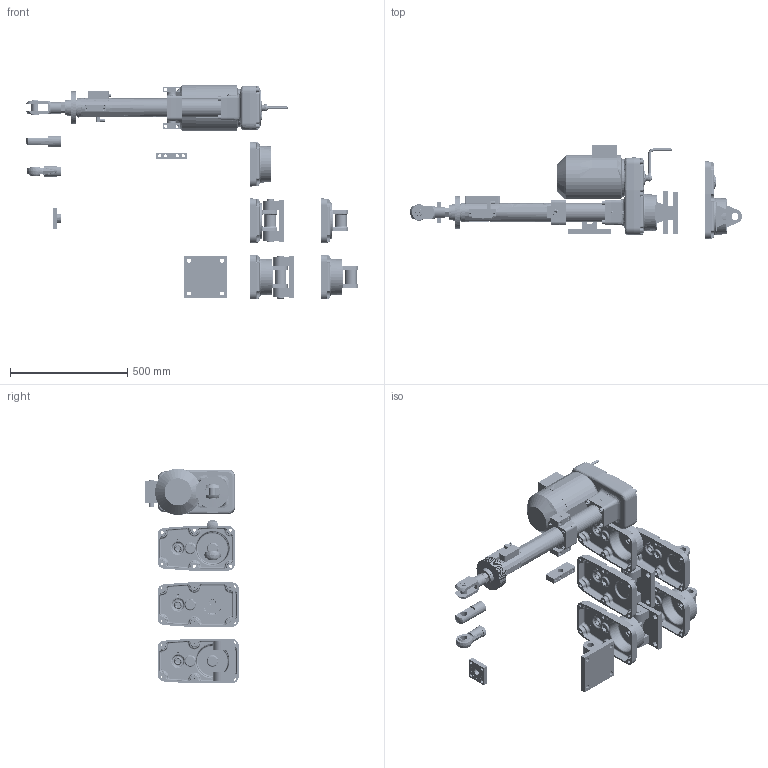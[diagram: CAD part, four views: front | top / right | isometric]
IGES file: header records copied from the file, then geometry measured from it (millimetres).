
Start section: SolidWorks IGES file using analytic representation for surfaces
Global section: file name: D:\ÂÍÓÊÎÂ ÂÑ\ÑÌ\Ñàéò\ÌÝÏ-Ñ3\Êîìïàñ 3D AutoCAD\Êîìïàñ 3D AutoCAD\ÌÝÏ Ñ3 400.IGS; native system: SolidWorks 2012; preprocessor: SolidWorks 2012; author: âíóêîâ; date: 141211.134514; units: millimetre
Bounding box: 1413 x 398.42 x 914 mm (x, y, z)
Surface area: 3077059 mm2 (no closed solid volume)
Topology: 0 solids, 0 shells, 4372 faces, 80346 edges, 80201 vertices
Faces by surface type: bspline 2257, revolution 2115
